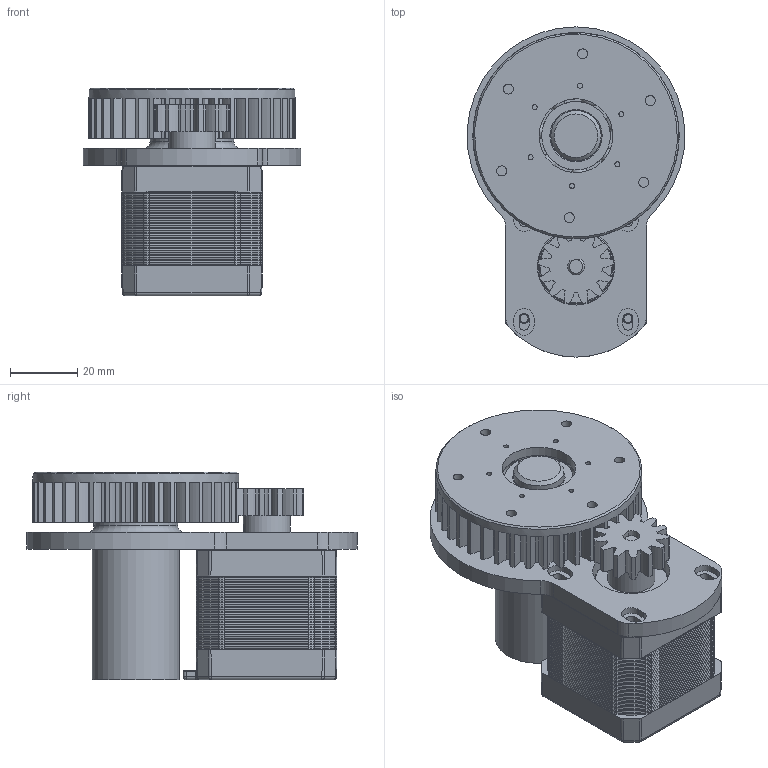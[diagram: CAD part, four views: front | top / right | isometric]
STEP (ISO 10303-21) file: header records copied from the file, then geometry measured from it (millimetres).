
FILE_DESCRIPTION(/* description */ (''),/* implementation_level */ '2;1');
FILE_NAME(/* name */ 'C:\Users\admin\Desktop\inventor\base rotante ingranaggi\step\base_rotante_ingranaggi_drittii.stp',/* time_stamp */ '2021-09-22T09:41:58+02:00',/* author */ ('admin'),/* organization */ (''),/* preprocessor_version */ 'ST-DEVELOPER v18.1',/* originating_system */ 'Autodesk Inventor 2022',/* authorisation */ '');
FILE_SCHEMA (('AUTOMOTIVE_DESIGN { 1 0 10303 214 3 1 1 }'));
Products named in the file (18): Assieme_ingranaggi; Nema17; Bottom_cap; Protective_film_bottom; Bearing_spring; Thick_washer; Rotor; Thick_washer_Thick; Bearing; Stator; Top_cap; Screw; case; SKF6002; sostegno; Ingranaggi cilindrici; Ingranaggio cilindrico1; Ingranaggio cilindrico2
Assembly tree (21 placements, depth 3):
  Assieme_ingranaggi
    Nema17
      Bottom_cap
      Protective_film_bottom
      Bearing_spring
      Bearing  x2
      Thick_washer
      Rotor
      Thick_washer_Thick
      Stator
      Top_cap
      Screw  x4
    case
    SKF6002
    sostegno
    Ingranaggi cilindrici
      Ingranaggio cilindrico1
      Ingranaggio cilindrico2
Bounding box: 64.94 x 98.51 x 62 mm (x, y, z)
Volume: 114608.6 mm3; surface area: 72441 mm2
Topology: 55 solids, 55 shells, 2322 faces, 5476 edges, 3247 vertices
Faces by surface type: cylinder 932, torus 660, plane 371, bspline 246, sphere 71, cone 42
Full cylindrical faces by diameter (mm): 1.5 x6, 2.5 x2, 3 x24, 5 x6, 7.5 x2, 9 x6, 11 x1, 12 x2, 13 x4, 14 x1, 15 x3, 16 x4, 20 x1, 20.44 x2, 22 x2, 23 x1, 24 x1, 25 x1, 26 x3, 26.5 x1, 26.56 x2, 32 x2, 61.5 x1
Entity records: 65287 total; most frequent: CARTESIAN_POINT 16985, DIRECTION 11387, ORIENTED_EDGE 9350, AXIS2_PLACEMENT_3D 4999, EDGE_CURVE 4675, CIRCLE 3022, VERTEX_POINT 2813, EDGE_LOOP 2094
